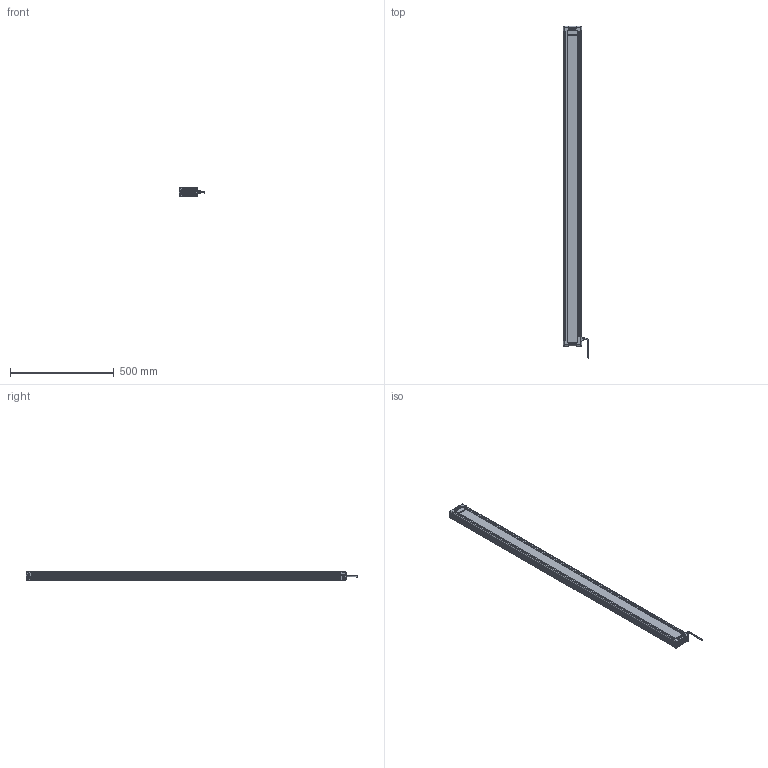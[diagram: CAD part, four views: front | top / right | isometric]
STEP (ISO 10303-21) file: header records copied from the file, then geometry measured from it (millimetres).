
FILE_DESCRIPTION (( 'STEP AP214' ), '1' );
FILE_NAME ('EFFI-BL-050-1500-ZZZ 1x M12.STEP', '2021-06-18T09:14:59', ( '' ), ( '' ), 'SwSTEP 2.0', 'SolidWorks 2021', '' );
FILE_SCHEMA (( 'AUTOMOTIVE_DESIGN' ));
Length unit declared in the file: millimetre
Products named in the file (9): Pièce13^EFFI-BL-XXX-YYY-ZZZ -1M12; profile X_PERCE; 000629; petite joue; profile Y_PERCE; EFFI-BL-050-1500-ZZZ 1x M12; petite joue + vis; cordon_Avec cable; grande joue
Assembly tree (15 placements, depth 3):
  EFFI-BL-050-1500-ZZZ 1x M12
    profile X_PERCE  x2
    profile Y_PERCE  x2
    Pièce13^EFFI-BL-XXX-YYY-ZZZ -1M12
    petite joue + vis  x3
      petite joue
      000629
    000629  x2
    grande joue
    cordon_Avec cable
Bounding box: 124.15 x 1596.14 x 43.2 mm (x, y, z)
Volume: 4597704.3 mm3; surface area: 744582.1 mm2
Topology: 17 solids, 23 shells, 3485 faces, 9341 edges, 6182 vertices
Faces by surface type: plane 2315, cylinder 592, bspline 552, cone 16, torus 10
Entity records: 67108 total; most frequent: CARTESIAN_POINT 27533, ORIENTED_EDGE 8416, DIRECTION 6619, EDGE_CURVE 4212, LINE 3319, VECTOR 3319, VERTEX_POINT 2799, EDGE_LOOP 1757
